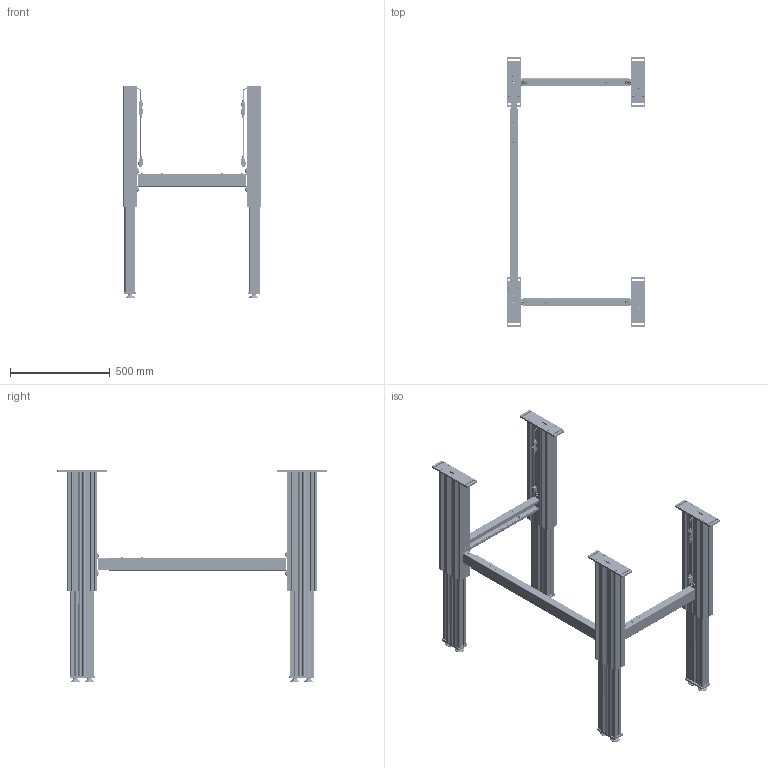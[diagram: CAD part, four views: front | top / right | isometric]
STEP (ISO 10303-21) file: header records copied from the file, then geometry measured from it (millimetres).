
FILE_DESCRIPTION(/* description */ ('Unknown'),/* implementation_level */ '2;1');
FILE_NAME(/* name */ 'Untergestell SM 4340 1050-1700 XX XX_00-Ausgefahren',/* time_stamp */ '2022-08-15T09:26:30+02:00',/* author */ ('Unknown'),/* organization */ ('Unknown'),/* preprocessor_version */ 'ST-DEVELOPER v18.102',/* originating_system */ 'Solid Edge',/* authorisation */ 'Unknown');
FILE_SCHEMA (('AUTOMOTIVE_DESIGN {1 0 10303 214 3 1 1}'));
Products named in the file (48): Untergestell SM 4340 1050-1700 XX XX; 902.01024_oa_0; 126.00138; 119.00312; 119.00311; 142.00166; 124.00201_oa_1; 142.00241; 110.00113_oa_2; 115.00200_oa_3; 124.00151; Kabel Motor Sx; 142.00343; 127.00329; 113.00006; 113.00006-ohne Mutter; Mutter M10; 902.01024_oa_4; 124.00201_oa_5; 110.00113_oa_6; 115.00200_oa_7; 902.01024_oa_8; 124.00201_oa_9; 110.00113_oa_10; 115.00200_oa_11; 902.01024_oa_12; 124.00201_oa_13; DIN7380-M5X8-BR-M_0; 110.00113_oa_14; 115.00200_oa_15; 127.00631; 096599~1; 096600~1; Sechskantmutter M6 DIN 934; Scheibe Ø6,4 DIN 125; Halbrundkopfschraube mit Innensechskant M8x12 ISO 7380-1; Scheibe Ø8,4 DIN 125; Nutenstein M8_montiert; Halbrundkopfschraube mit Innensechskant und Bund M6x16 ISO 7380-2; 127.00632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
Assembly tree (138 placements, depth 4):
  Untergestell SM 4340 1050-1700 XX XX
    902.01024_oa_0
      126.00138
      119.00312
      119.00311
      142.00166  x4
      124.00201_oa_1
      142.00241  x2
      110.00113_oa_2
      115.00200_oa_3
      124.00151
      Kabel Motor Sx
      142.00343  x2
    127.00329  x4
    113.00006  x8
      113.00006-ohne Mutter
      Mutter M10
    902.01024_oa_4
      126.00138
      119.00312
      119.00311
      142.00166  x4
      124.00201_oa_5
      142.00241  x2
      110.00113_oa_6
      115.00200_oa_7
      124.00151
      Kabel Motor Sx
      142.00343  x2
    902.01024_oa_8
      126.00138
      119.00312
      119.00311
      142.00166  x4
      124.00201_oa_9
      142.00241  x2
      110.00113_oa_10
      115.00200_oa_11
      124.00151
      Kabel Motor Sx
      142.00343  x2
    902.01024_oa_12
      126.00138
      119.00312
      119.00311
      142.00166  x4
      124.00201_oa_13
        DIN7380-M5X8-BR-M_0
      142.00241  x2
      110.00113_oa_14
      115.00200_oa_15
      124.00151
      Kabel Motor Sx
      142.00343  x2
    127.00631  x2
      096599~1
      096600~1
      Sechskantmutter M6 DIN 934
      Scheibe Ø6,4 DIN 125
      Halbrundkopfschraube mit Innensechskant M8x12 ISO 7380-1
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Bounding box: 690 x 1350 x 1063 mm (x, y, z)
Volume: 12413230.2 mm3; surface area: 6485643.9 mm2
Topology: 151 solids, 151 shells, 16527 faces, 45920 edges, 30260 vertices
Faces by surface type: plane 9213, cylinder 5930, torus 645, bspline 436, cone 267, sphere 36
Full cylindrical faces by diameter (mm): 1.5 x24, 1.82 x24, 2.459 x4, 2.7 x24, 3.242 x8, 3.4 x4, 3.464 x1, 4 x16, 4.567 x1, 5 x28, 5.5 x16, 6 x36, 6.4 x12, 6.6 x16, 6.647 x12, 7 x8, 8 x20, 8.376 x20, 8.5 x64, 8.7 x16, 9.5 x8, 10 x8, 12 x12, 12.5 x16, 13.6 x12, 14 x12, 15 x8, 16.8 x12, 19 x8, 25 x8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
Entity records: 155960 total; most frequent: CARTESIAN_POINT 29012, ORIENTED_EDGE 22438, DIRECTION 22192, EDGE_CURVE 11219, VERTEX_POINT 7513, AXIS2_PLACEMENT_3D 7511, LINE 7170, VECTOR 7170
